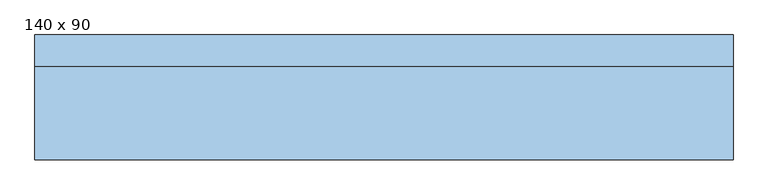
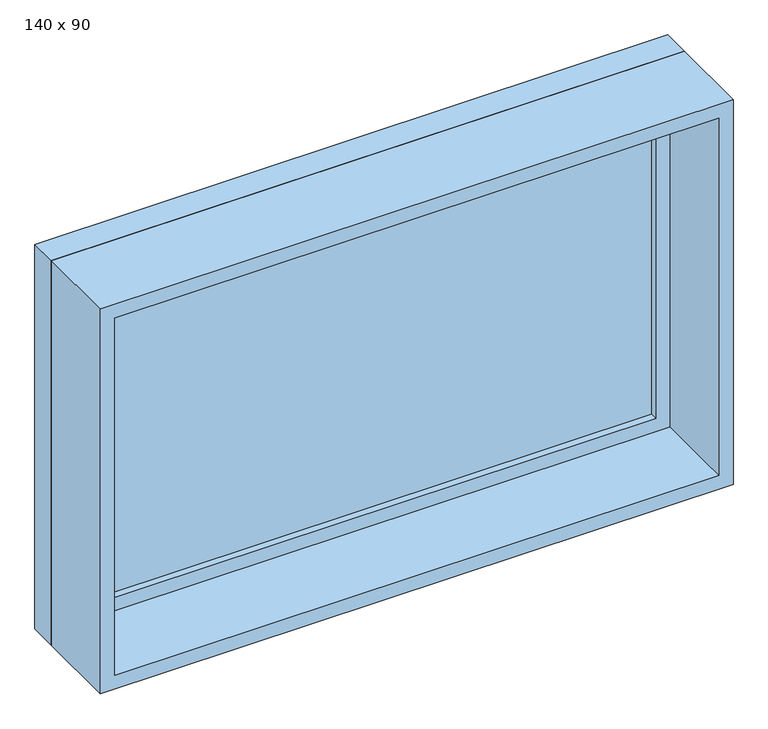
"""IFC4 building model written with IfcOpenShell, lengths in millimetres: window geometry, M_Fixado : 140 x 90."""

from ifc_helpers import new_model, si_unit, frame, origin, place, context, project, spatial, polyline, outline, extrude, source, transform, mapped, element, save


def window_140_x_90_3976a560(model_context):
    return source(origin(), model_context, "Body", "SweptSolid", [
        extrude(outline(polyline([(-637.0, 103.0), (637.0, 103.0), (637.0, 91.0), (-637.0, 91.0), (-637.0, 103.0)])), frame((0.0, 0.0, 978.0), z_axis=(0.0, 0.0, 1.0), x_axis=(1.0, 0.0, 0.0)), (0.0, 0.0, 1.0), 774.0),
        extrude(outline(polyline([(1796.0, -681.0), (934.0, -681.0), (934.0, 681.0), (1796.0, 681.0), (1796.0, -681.0)]), holes=[polyline([(1752.0, -637.0), (1752.0, 637.0), (978.0, 637.0), (978.0, -637.0), (1752.0, -637.0)])]), frame((0.0, 75.0, 0.0), z_axis=(0.0, 1.0, 0.0), x_axis=(0.0, 0.0, 1.0)), (0.0, 0.0, 1.0), 44.0),
        extrude(outline(polyline([(1815.0, -700.0), (915.0, -700.0), (915.0, 700.0), (1815.0, 700.0), (1815.0, -700.0)]), holes=[polyline([(1796.0, -681.0), (1796.0, 681.0), (934.0, 681.0), (934.0, -681.0), (1796.0, -681.0)])]), frame((0.0, 75.0, 0.0), z_axis=(0.0, 1.0, 0.0), x_axis=(0.0, 0.0, 1.0)), (0.0, 0.0, 1.0), 63.0),
        extrude(outline(polyline([(1815.0, -700.0), (915.0, -700.0), (915.0, 700.0), (1815.0, 700.0), (1815.0, -700.0)]), holes=[polyline([(1783.0, -668.0), (1783.0, 668.0), (947.0, 668.0), (947.0, -668.0), (1783.0, -668.0)])]), frame((0.0, -112.0, 0.0), z_axis=(0.0, 1.0, 0.0), x_axis=(0.0, 0.0, 1.0)), (0.0, 0.0, 1.0), 187.0),
    ])


if __name__ == "__main__":
    model = new_model("IFC4")
    model_context = context("Model", 3, world=origin())
    ifc_project = project(units=[si_unit("LENGTHUNIT", "METRE", prefix="MILLI")], contexts=[model_context])
    site = spatial("IfcSite", under=ifc_project)
    building = spatial("IfcBuilding", under=site)
    placement = place(None, origin())
    window_140_x_90_shape = window_140_x_90_3976a560(model_context)
    element("IfcWindow", 1, ObjectType="M_Fixado : 140 x 90", at=placement, inside=building, context=model_context, shape_type="MappedRepresentation", body=[
        mapped(window_140_x_90_shape, transform((0.0, 0.0, 0.0), x_axis=(1.0, 0.0, 0.0), y_axis=(0.0, 1.0, 0.0), z_axis=(0.0, 0.0, 1.0))),
    ])
    save(model, "model.ifc")
